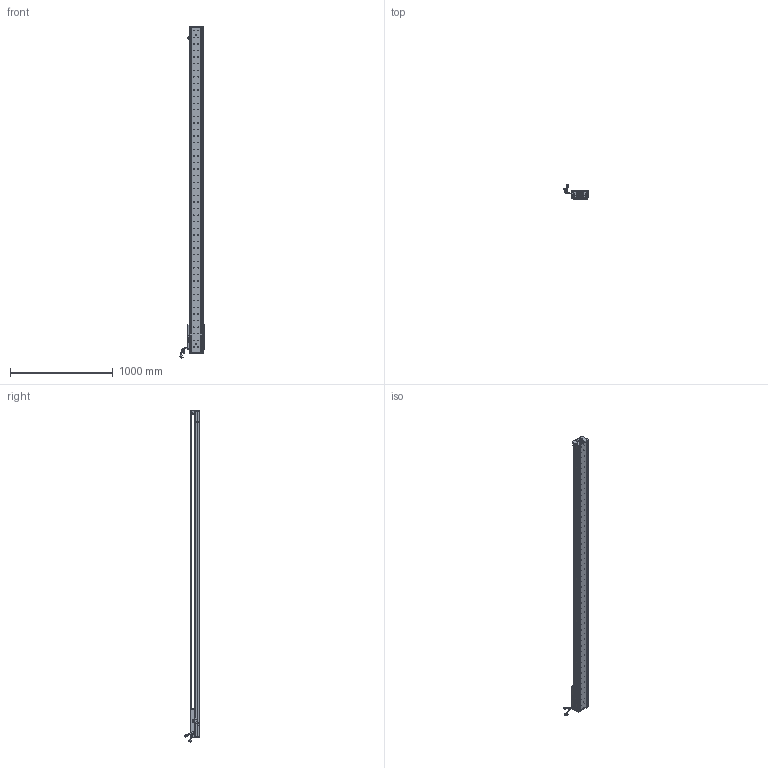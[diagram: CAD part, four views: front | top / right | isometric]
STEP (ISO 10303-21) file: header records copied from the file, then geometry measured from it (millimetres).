
FILE_DESCRIPTION (( 'STEP AP203' ), '1' );
FILE_NAME ('Z3-RY140D-1-L500-B-K.SLDASM_2850.step', '2021-05-17T08:06:53', ( '盈信电脑' ), ( '东莞市道滘镇水果街19号' ), 'SwSTEP 2.0', 'SolidWorks 2016', '' );
FILE_SCHEMA (( 'CONFIG_CONTROL_DESIGN' ));
Length unit declared in the file: millimetre
Products named in the file (36): 140蚥薯蝶輸; Z-140詩湍傷裔啣; SCREW-M1.6; SEAL; LABEL; LABEL-Part-1; Z3-RY140D-1-L500-B-K.SLDASM_2850; Z3-RY140-L500直线电机模组底座_2850; COVER-Part-1; SCREW-M1.7-1; Z-RY140詩湍狟揤裔; Z-RY140詩湍奻揤裔; HARNESS-Part-2; SCALE-Part-2; HARNESS-Part-1; Z3-RY140-L500詩湍100mm遵_2850; SEAL-Part-1; HOLDER0; SHIELDPLATE; 140-Z-臏賑輸盄裔(21遴); SCALE; Z-RY140感应器672光电感应片; PBU_SHEET; HARNESS; Z3-RY140圉猾敕臏賑輸(21遴); SCREW-M1.6-2; SCREW-M1.6-3; 榋妏寠巭燃_暯_M2_2; 140雄赽晤鎢ん堤盄; SCREW-M1.6-1; SCREW-M1.7; 080黍杅芛假蚾釱21遴; PSLH080_PSLF2; COVER; 覜茼ん672; SCALE-Part-1
Assembly tree (41 placements, depth 4):
  Z3-RY140D-1-L500-B-K.SLDASM_2850
    Z3-RY140-L500直线电机模组底座_2850
    Z-RY140感应器672光电感应片
    Z3-RY140圉猾敕臏賑輸(21遴)
    覜茼ん672  x3
    Z3-RY140-L500詩湍100mm遵_2850
    PSLH080_PSLF2
      SCALE
        SCALE-Part-1
        SCALE-Part-2
      HARNESS
        HARNESS-Part-1
        HARNESS-Part-2
      LABEL
        LABEL-Part-1
      COVER
        COVER-Part-1
      SEAL
        SEAL-Part-1
      榋妏寠巭燃_暯_M2_2
      SHIELDPLATE
      SCREW-M1.7
      SCREW-M1.7-1
      PBU_SHEET
      SCREW-M1.6
      SCREW-M1.6-1
      SCREW-M1.6-2
      SCREW-M1.6-3
      HOLDER0
    080黍杅芛假蚾釱21遴
    140-Z-臏賑輸盄裔(21遴)
    Z-140詩湍傷裔啣  x2
    Z-RY140詩湍狟揤裔  x2
    Z-RY140詩湍奻揤裔  x2
    140蚥薯蝶輸  x2
    140雄赽晤鎢ん堤盄
Bounding box: 239.79 x 143.88 x 3225.87 mm (x, y, z)
Volume: 10135686.4 mm3; surface area: 2643670.3 mm2
Topology: 36 solids, 36 shells, 4502 faces, 12326 edges, 7805 vertices
Faces by surface type: cylinder 2500, plane 1438, cone 442, torus 69, bspline 53
Entity records: 145086 total; most frequent: CARTESIAN_POINT 41781, ORIENTED_EDGE 21492, DIRECTION 19658, EDGE_CURVE 10746, AXIS2_PLACEMENT_3D 7330, VERTEX_POINT 6973, LINE 4998, VECTOR 4998
